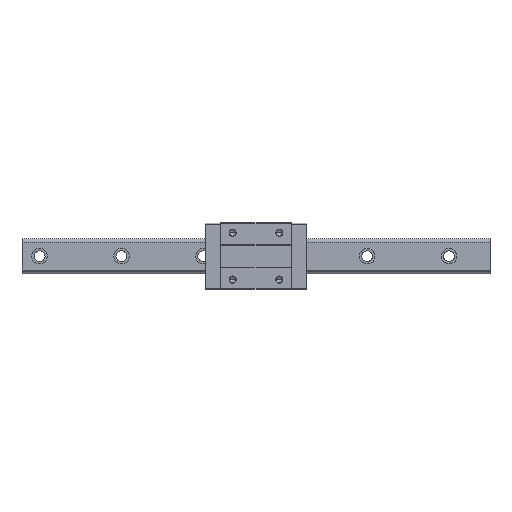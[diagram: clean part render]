
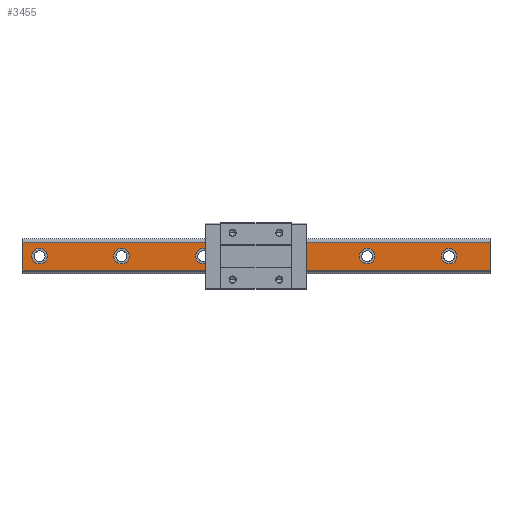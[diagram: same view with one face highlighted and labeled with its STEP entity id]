
A CAD part, top view. The second image highlights one B-rep face of the part: STEP entity #3455.
In plain terms, the highlighted planar face has unit normal (0, 0, 1).
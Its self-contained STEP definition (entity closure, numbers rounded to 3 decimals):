
#77 = EDGE_LOOP ( 'NONE', ( #4726, #1995 ) ) ;
#80 = VERTEX_POINT ( 'NONE', #869 ) ;
#102 = DIRECTION ( 'NONE',  ( 0., 0., 1. ) ) ;
#152 = EDGE_CURVE ( 'NONE', #80, #3868, #505, .T. ) ;
#174 = ORIENTED_EDGE ( 'NONE', *, *, #4626, .F. ) ;
#207 = AXIS2_PLACEMENT_3D ( 'NONE', #1839, #4845, #5293 ) ;
#267 = CARTESIAN_POINT ( 'NONE',  ( 27.5, 0., 32. ) ) ;
#277 = DIRECTION ( 'NONE',  ( 1., 0., 0. ) ) ;
#306 = CARTESIAN_POINT ( 'NONE',  ( 300., -17.696, 32. ) ) ;
#314 = DIRECTION ( 'NONE',  ( 1., 0., 0. ) ) ;
#365 = CARTESIAN_POINT ( 'NONE',  ( 300., -17.696, 32. ) ) ;
#393 = DIRECTION ( 'NONE',  ( 1., 0., 0. ) ) ;
#414 = FACE_BOUND ( 'NONE', #4516, .T. ) ;
#436 = CARTESIAN_POINT ( 'NONE',  ( 300., 17.696, 32. ) ) ;
#505 = CIRCLE ( 'NONE', #2312, 10. ) ;
#515 = ORIENTED_EDGE ( 'NONE', *, *, #2626, .F. ) ;
#559 = ORIENTED_EDGE ( 'NONE', *, *, #4379, .F. ) ;
#564 = CARTESIAN_POINT ( 'NONE',  ( -172.5, 0., 32. ) ) ;
#611 = EDGE_CURVE ( 'NONE', #3409, #3693, #4577, .T. ) ;
#638 = CARTESIAN_POINT ( 'NONE',  ( 237.5, 0., 32. ) ) ;
#651 = ORIENTED_EDGE ( 'NONE', *, *, #1727, .F. ) ;
#667 = CARTESIAN_POINT ( 'NONE',  ( 152.5, 0., 32. ) ) ;
#672 = DIRECTION ( 'NONE',  ( 1., 0., 0. ) ) ;
#732 = VERTEX_POINT ( 'NONE', #3681 ) ;
#776 = AXIS2_PLACEMENT_3D ( 'NONE', #2058, #1218, #2936 ) ;
#794 = CARTESIAN_POINT ( 'NONE',  ( -277.5, 0., 32. ) ) ;
#803 = DIRECTION ( 'NONE',  ( 1., 0., 0. ) ) ;
#839 = VERTEX_POINT ( 'NONE', #1512 ) ;
#869 = CARTESIAN_POINT ( 'NONE',  ( -162.5, 0., 32. ) ) ;
#905 = ORIENTED_EDGE ( 'NONE', *, *, #2787, .T. ) ;
#1007 = VERTEX_POINT ( 'NONE', #3516 ) ;
#1049 = CARTESIAN_POINT ( 'NONE',  ( 132.5, 0., 32. ) ) ;
#1073 = EDGE_LOOP ( 'NONE', ( #3579, #3587 ) ) ;
#1128 = ORIENTED_EDGE ( 'NONE', *, *, #2066, .T. ) ;
#1135 = VECTOR ( 'NONE', #1934, 1000. ) ;
#1182 = CIRCLE ( 'NONE', #2796, 10. ) ;
#1207 = EDGE_CURVE ( 'NONE', #3565, #1628, #2650, .T. ) ;
#1218 = DIRECTION ( 'NONE',  ( 0., 0., 1. ) ) ;
#1228 = ORIENTED_EDGE ( 'NONE', *, *, #1551, .F. ) ;
#1310 = AXIS2_PLACEMENT_3D ( 'NONE', #5430, #3341, #277 ) ;
#1326 = DIRECTION ( 'NONE',  ( 0., 0., -1. ) ) ;
#1398 = VERTEX_POINT ( 'NONE', #638 ) ;
#1425 = VERTEX_POINT ( 'NONE', #4049 ) ;
#1502 = CIRCLE ( 'NONE', #776, 10. ) ;
#1512 = CARTESIAN_POINT ( 'NONE',  ( -300., -17.696, 32. ) ) ;
#1540 = CARTESIAN_POINT ( 'NONE',  ( 47.5, 0., 32. ) ) ;
#1551 = EDGE_CURVE ( 'NONE', #1425, #732, #5188, .T. ) ;
#1589 = CIRCLE ( 'NONE', #4114, 10. ) ;
#1628 = VERTEX_POINT ( 'NONE', #667 ) ;
#1701 = ORIENTED_EDGE ( 'NONE', *, *, #1207, .F. ) ;
#1708 = EDGE_LOOP ( 'NONE', ( #174, #2548 ) ) ;
#1727 = EDGE_CURVE ( 'NONE', #1628, #3565, #3197, .T. ) ;
#1794 = FACE_BOUND ( 'NONE', #1073, .T. ) ;
#1839 = CARTESIAN_POINT ( 'NONE',  ( 142.5, 0., 32. ) ) ;
#1934 = DIRECTION ( 'NONE',  ( -1., 0., 0. ) ) ;
#1952 = DIRECTION ( 'NONE',  ( 0., 0., 1. ) ) ;
#1972 = CARTESIAN_POINT ( 'NONE',  ( -267.5, 0., 32. ) ) ;
#1974 = DIRECTION ( 'NONE',  ( 0., 0., 1. ) ) ;
#1995 = ORIENTED_EDGE ( 'NONE', *, *, #2578, .F. ) ;
#2041 = CIRCLE ( 'NONE', #2944, 10. ) ;
#2042 = VERTEX_POINT ( 'NONE', #267 ) ;
#2058 = CARTESIAN_POINT ( 'NONE',  ( 247.5, 0., 32. ) ) ;
#2066 = EDGE_CURVE ( 'NONE', #1007, #839, #5192, .T. ) ;
#2146 = FACE_BOUND ( 'NONE', #1708, .T. ) ;
#2173 = EDGE_LOOP ( 'NONE', ( #1128, #2753, #559, #905 ) ) ;
#2172 = DIRECTION ( 'NONE',  ( 0., -1., 0. ) ) ;
#2312 = AXIS2_PLACEMENT_3D ( 'NONE', #5172, #3020, #4360 ) ;
#2333 = AXIS2_PLACEMENT_3D ( 'NONE', #2624, #1326, #4715 ) ;
#2510 = EDGE_CURVE ( 'NONE', #4091, #2042, #1589, .T. ) ;
#2548 = ORIENTED_EDGE ( 'NONE', *, *, #611, .F. ) ;
#2578 = EDGE_CURVE ( 'NONE', #3868, #80, #5565, .T. ) ;
#2624 = CARTESIAN_POINT ( 'NONE',  ( 300., -17.696, 32. ) ) ;
#2626 = EDGE_CURVE ( 'NONE', #732, #1425, #5373, .T. ) ;
#2650 = CIRCLE ( 'NONE', #207, 10. ) ;
#2702 = CARTESIAN_POINT ( 'NONE',  ( 142.5, 0., 32. ) ) ;
#2710 = DIRECTION ( 'NONE',  ( 1., 0., 0. ) ) ;
#2753 = ORIENTED_EDGE ( 'NONE', *, *, #5045, .F. ) ;
#2774 = EDGE_CURVE ( 'NONE', #1398, #4975, #2041, .T. ) ;
#2787 = EDGE_CURVE ( 'NONE', #4981, #1007, #4969, .T. ) ;
#2796 = AXIS2_PLACEMENT_3D ( 'NONE', #794, #5545, #393 ) ;
#2843 = EDGE_CURVE ( 'NONE', #4975, #1398, #1502, .T. ) ;
#2865 = CARTESIAN_POINT ( 'NONE',  ( 37.5, 0., 32. ) ) ;
#2936 = DIRECTION ( 'NONE',  ( 1., 0., 0. ) ) ;
#2944 = AXIS2_PLACEMENT_3D ( 'NONE', #3184, #102, #2710 ) ;
#2992 = FACE_BOUND ( 'NONE', #77, .T. ) ;
#3020 = DIRECTION ( 'NONE',  ( 0., 0., 1. ) ) ;
#3184 = CARTESIAN_POINT ( 'NONE',  ( 247.5, 0., 32. ) ) ;
#3197 = CIRCLE ( 'NONE', #4106, 10. ) ;
#3319 = DIRECTION ( 'NONE',  ( -1., 0., 0. ) ) ;
#3341 = DIRECTION ( 'NONE',  ( 0., 0., 1. ) ) ;
#3409 = VERTEX_POINT ( 'NONE', #4822 ) ;
#3455 = ADVANCED_FACE ( 'NONE', ( #5194, #414, #1794, #5222, #2992, #2146, #4799 ), #3872, .F. ) ;
#3469 = CARTESIAN_POINT ( 'NONE',  ( -300., -17.696, 32. ) ) ;
#3494 = DIRECTION ( 'NONE',  ( 0., 0., 1. ) ) ;
#3516 = CARTESIAN_POINT ( 'NONE',  ( -300., 17.696, 32. ) ) ;
#3527 = DIRECTION ( 'NONE',  ( 1., 0., 0. ) ) ;
#3551 = DIRECTION ( 'NONE',  ( 0., 0., 1. ) ) ;
#3565 = VERTEX_POINT ( 'NONE', #1049 ) ;
#3570 = CARTESIAN_POINT ( 'NONE',  ( 300., -17.696, 32. ) ) ;
#3579 = ORIENTED_EDGE ( 'NONE', *, *, #2510, .F. ) ;
#3587 = ORIENTED_EDGE ( 'NONE', *, *, #4043, .F. ) ;
#3668 = CARTESIAN_POINT ( 'NONE',  ( 300., 17.696, 32. ) ) ;
#3681 = CARTESIAN_POINT ( 'NONE',  ( -57.5, 0., 32. ) ) ;
#3693 = VERTEX_POINT ( 'NONE', #1972 ) ;
#3706 = VERTEX_POINT ( 'NONE', #306 ) ;
#3785 = ORIENTED_EDGE ( 'NONE', *, *, #2843, .F. ) ;
#3868 = VERTEX_POINT ( 'NONE', #4305 ) ;
#3872 = PLANE ( 'NONE',  #2333 ) ;
#3963 = DIRECTION ( 'NONE',  ( 0., 0., 1. ) ) ;
#4043 = EDGE_CURVE ( 'NONE', #2042, #4091, #5507, .T. ) ;
#4049 = CARTESIAN_POINT ( 'NONE',  ( -77.5, 0., 32. ) ) ;
#4050 = LINE ( 'NONE', #3570, #4420 ) ;
#4078 = DIRECTION ( 'NONE',  ( 1., 0., 0. ) ) ;
#4083 = DIRECTION ( 'NONE',  ( 0., 0., 1. ) ) ;
#4091 = VERTEX_POINT ( 'NONE', #1540 ) ;
#4106 = AXIS2_PLACEMENT_3D ( 'NONE', #2702, #3551, #3527 ) ;
#4114 = AXIS2_PLACEMENT_3D ( 'NONE', #5187, #3494, #803 ) ;
#4255 = LINE ( 'NONE', #365, #5068 ) ;
#4305 = CARTESIAN_POINT ( 'NONE',  ( -182.5, 0., 32. ) ) ;
#4360 = DIRECTION ( 'NONE',  ( 1., 0., 0. ) ) ;
#4379 = EDGE_CURVE ( 'NONE', #4981, #3706, #4050, .T. ) ;
#4420 = VECTOR ( 'NONE', #5291, 1000. ) ;
#4444 = CARTESIAN_POINT ( 'NONE',  ( -277.5, 0., 32. ) ) ;
#4458 = VECTOR ( 'NONE', #2172, 1000. ) ;
#4496 = DIRECTION ( 'NONE',  ( 1., 0., 0. ) ) ;
#4516 = EDGE_LOOP ( 'NONE', ( #651, #1701 ) ) ;
#4562 = AXIS2_PLACEMENT_3D ( 'NONE', #5402, #1974, #672 ) ;
#4577 = CIRCLE ( 'NONE', #5295, 10. ) ;
#4626 = EDGE_CURVE ( 'NONE', #3693, #3409, #1182, .T. ) ;
#4698 = AXIS2_PLACEMENT_3D ( 'NONE', #2865, #1952, #314 ) ;
#4715 = DIRECTION ( 'NONE',  ( -1., 0., 0. ) ) ;
#4726 = ORIENTED_EDGE ( 'NONE', *, *, #152, .F. ) ;
#4738 = CARTESIAN_POINT ( 'NONE',  ( 257.5, 0., 32. ) ) ;
#4798 = EDGE_LOOP ( 'NONE', ( #515, #1228 ) ) ;
#4799 = FACE_OUTER_BOUND ( 'NONE', #2173, .T. ) ;
#4822 = CARTESIAN_POINT ( 'NONE',  ( -287.5, 0., 32. ) ) ;
#4845 = DIRECTION ( 'NONE',  ( 0., 0., 1. ) ) ;
#4969 = LINE ( 'NONE', #3668, #1135 ) ;
#4975 = VERTEX_POINT ( 'NONE', #4738 ) ;
#4981 = VERTEX_POINT ( 'NONE', #436 ) ;
#5045 = EDGE_CURVE ( 'NONE', #3706, #839, #4255, .T. ) ;
#5068 = VECTOR ( 'NONE', #3319, 1000. ) ;
#5172 = CARTESIAN_POINT ( 'NONE',  ( -172.5, 0., 32. ) ) ;
#5188 = CIRCLE ( 'NONE', #1310, 10. ) ;
#5187 = CARTESIAN_POINT ( 'NONE',  ( 37.5, 0., 32. ) ) ;
#5192 = LINE ( 'NONE', #3469, #4458 ) ;
#5194 = FACE_BOUND ( 'NONE', #5289, .T. ) ;
#5222 = FACE_BOUND ( 'NONE', #4798, .T. ) ;
#5289 = EDGE_LOOP ( 'NONE', ( #3785, #5449 ) ) ;
#5291 = DIRECTION ( 'NONE',  ( 0., -1., 0. ) ) ;
#5293 = DIRECTION ( 'NONE',  ( 1., 0., 0. ) ) ;
#5295 = AXIS2_PLACEMENT_3D ( 'NONE', #4444, #4083, #4496 ) ;
#5373 = CIRCLE ( 'NONE', #4562, 10. ) ;
#5402 = CARTESIAN_POINT ( 'NONE',  ( -67.5, 0., 32. ) ) ;
#5430 = CARTESIAN_POINT ( 'NONE',  ( -67.5, 0., 32. ) ) ;
#5449 = ORIENTED_EDGE ( 'NONE', *, *, #2774, .F. ) ;
#5468 = AXIS2_PLACEMENT_3D ( 'NONE', #564, #3963, #4078 ) ;
#5507 = CIRCLE ( 'NONE', #4698, 10. ) ;
#5545 = DIRECTION ( 'NONE',  ( 0., 0., 1. ) ) ;
#5565 = CIRCLE ( 'NONE', #5468, 10. ) ;
